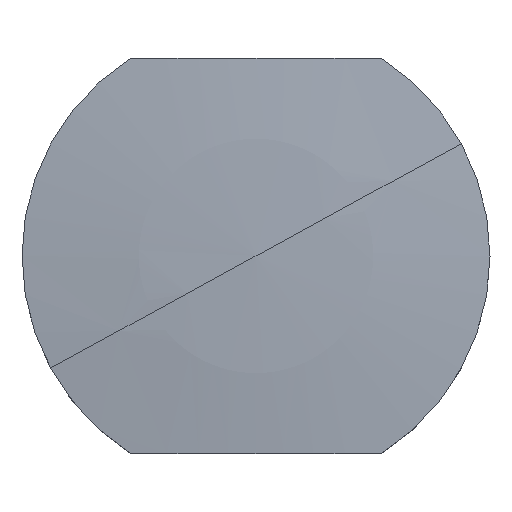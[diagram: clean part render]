
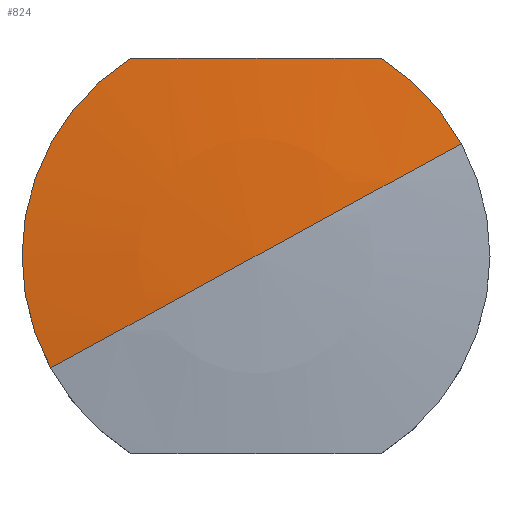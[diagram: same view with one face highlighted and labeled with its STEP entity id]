
A CAD part, top view. The second image highlights one B-rep face of the part: STEP entity #824.
In plain terms, the highlighted spherical face has radius 100 mm.
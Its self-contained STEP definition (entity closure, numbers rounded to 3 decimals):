
#667=CARTESIAN_POINT('Vertex',(-6.026,9.5,7.365)) ;
#671=CARTESIAN_POINT('Control Point',(6.026,9.5,7.365)) ;
#672=CARTESIAN_POINT('Control Point',(5.501,9.5,7.397)) ;
#673=CARTESIAN_POINT('Control Point',(5.008,9.5,7.423)) ;
#674=CARTESIAN_POINT('Control Point',(4.541,9.5,7.446)) ;
#675=CARTESIAN_POINT('Control Point',(3.533,9.5,7.488)) ;
#676=CARTESIAN_POINT('Control Point',(2.606,9.5,7.516)) ;
#677=CARTESIAN_POINT('Control Point',(2.109,9.5,7.527)) ;
#678=CARTESIAN_POINT('Control Point',(0.929,9.5,7.548)) ;
#679=CARTESIAN_POINT('Control Point',(-0.21,9.5,7.551)) ;
#680=CARTESIAN_POINT('Control Point',(-0.881,9.5,7.547)) ;
#681=CARTESIAN_POINT('Control Point',(-2.084,9.5,7.531)) ;
#682=CARTESIAN_POINT('Control Point',(-3.38,9.5,7.493)) ;
#683=CARTESIAN_POINT('Control Point',(-3.963,9.5,7.472)) ;
#684=CARTESIAN_POINT('Control Point',(-4.72,9.5,7.438)) ;
#685=CARTESIAN_POINT('Control Point',(-5.55,9.5,7.393)) ;
#686=CARTESIAN_POINT('Control Point',(-5.706,9.5,7.384)) ;
#687=CARTESIAN_POINT('Control Point',(-5.864,9.5,7.375)) ;
#688=CARTESIAN_POINT('Control Point',(-6.026,9.5,7.365)) ;
#689=CARTESIAN_POINT('Vertex',(6.026,9.5,7.365)) ;
#778=CARTESIAN_POINT('Vertex',(-9.873,-5.394,7.365)) ;
#781=CARTESIAN_POINT('Axis2P3D Location',(0.,0.,7.365)) ;
#793=CARTESIAN_POINT('Axis2P3D Location',(0.,0.,-92.)) ;
#798=CARTESIAN_POINT('Axis2P3D Location',(0.,0.,-92.)) ;
#802=CARTESIAN_POINT('Vertex',(0.,0.,8.)) ;
#805=CARTESIAN_POINT('Axis2P3D Location',(0.,0.,-92.)) ;
#809=CARTESIAN_POINT('Vertex',(9.873,5.394,7.365)) ;
#812=CARTESIAN_POINT('Axis2P3D Location',(0.,0.,7.365)) ;
#782=DIRECTION('Axis2P3D Direction',(0.,0.,1.)) ;
#794=DIRECTION('Axis2P3D Direction',(0.,0.,1.)) ;
#795=DIRECTION('Axis2P3D XDirection',(0.878,0.479,0.)) ;
#799=DIRECTION('Axis2P3D Direction',(-0.479,0.878,0.)) ;
#806=DIRECTION('Axis2P3D Direction',(0.479,-0.878,0.)) ;
#813=DIRECTION('Axis2P3D Direction',(0.,0.,1.)) ;
#783=AXIS2_PLACEMENT_3D('Circle Axis2P3D',#781,#782,$) ;
#796=AXIS2_PLACEMENT_3D('Sphere Axis2P3D',#793,#794,#795) ;
#800=AXIS2_PLACEMENT_3D('Circle Axis2P3D',#798,#799,$) ;
#807=AXIS2_PLACEMENT_3D('Circle Axis2P3D',#805,#806,$) ;
#814=AXIS2_PLACEMENT_3D('Circle Axis2P3D',#812,#813,$) ;
#818=ORIENTED_EDGE('',*,*,#785,.T.) ;
#819=ORIENTED_EDGE('',*,*,#804,.F.) ;
#820=ORIENTED_EDGE('',*,*,#811,.T.) ;
#821=ORIENTED_EDGE('',*,*,#816,.T.) ;
#822=ORIENTED_EDGE('',*,*,#691,.T.) ;
#824=ADVANCED_FACE('',(#823),#797,.T.) ;
#670=B_SPLINE_CURVE_WITH_KNOTS('',5,(#671,#672,#673,#674,#675,#676,#677,#678,#679,#680,#681,#682,#683,#684,#685,#686,#687,#688),.UNSPECIFIED.,.F.,.U.,(6,3,3,3,3,6),(0.,19.918,44.826,80.561,107.657,113.795),.UNSPECIFIED.) ;
#784=CIRCLE('generated circle',#783,11.25) ;
#801=CIRCLE('generated circle',#800,100.) ;
#808=CIRCLE('generated circle',#807,100.) ;
#815=CIRCLE('generated circle',#814,11.25) ;
#691=EDGE_CURVE('',#690,#668,#670,.T.) ;
#785=EDGE_CURVE('',#668,#779,#784,.T.) ;
#804=EDGE_CURVE('',#803,#779,#801,.F.) ;
#811=EDGE_CURVE('',#803,#810,#808,.F.) ;
#816=EDGE_CURVE('',#810,#690,#815,.T.) ;
#817=EDGE_LOOP('',(#818,#819,#820,#821,#822)) ;
#823=FACE_OUTER_BOUND('',#817,.T.) ;
#797=SPHERICAL_SURFACE('',#796,100.) ;
#668=VERTEX_POINT('',#667) ;
#690=VERTEX_POINT('',#689) ;
#779=VERTEX_POINT('',#778) ;
#803=VERTEX_POINT('',#802) ;
#810=VERTEX_POINT('',#809) ;
